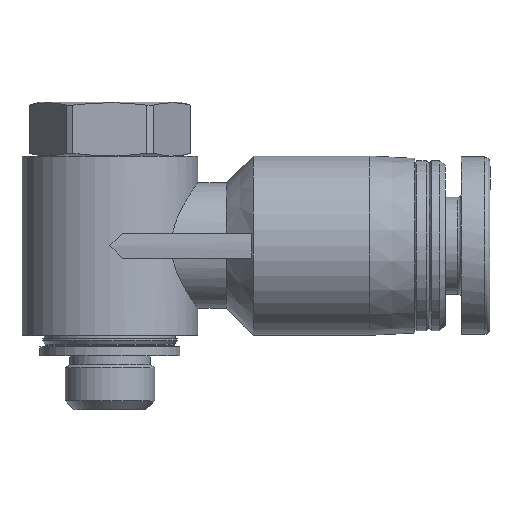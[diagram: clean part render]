
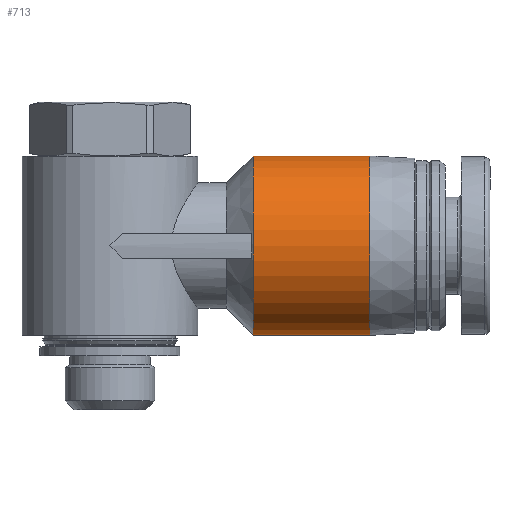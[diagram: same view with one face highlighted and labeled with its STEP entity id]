
A CAD part, front view. The second image highlights one B-rep face of the part: STEP entity #713.
In plain terms, the highlighted cylindrical face has radius 5 mm (diameter 10 mm), a partial arc.
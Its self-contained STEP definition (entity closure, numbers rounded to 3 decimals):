
#216 = EDGE_CURVE ( 'NONE', #2371, #2282, #987, .T. ) ;
#309 = DIRECTION ( 'NONE',  ( 0., 0., -1. ) ) ;
#477 = CARTESIAN_POINT ( 'NONE',  ( 8., 0., 4.15 ) ) ;
#479 = AXIS2_PLACEMENT_3D ( 'NONE', #2148, #2823, #309 ) ;
#583 = AXIS2_PLACEMENT_3D ( 'NONE', #1179, #2078, #2111 ) ;
#713 = ADVANCED_FACE ( '48', ( #1625 ), #2098, .T. ) ;
#739 = DIRECTION ( 'NONE',  ( 1., 0., 0. ) ) ;
#765 = CARTESIAN_POINT ( 'NONE',  ( 8., 0., 4.15 ) ) ;
#778 = ORIENTED_EDGE ( 'NONE', *, *, #2400, .F. ) ;
#794 = ORIENTED_EDGE ( 'NONE', *, *, #2530, .F. ) ;
#987 = LINE ( 'NONE', #477, #2392 ) ;
#1112 = LINE ( 'NONE', #2719, #2429 ) ;
#1179 = CARTESIAN_POINT ( 'NONE',  ( 8., 0., 9.15 ) ) ;
#1337 = CARTESIAN_POINT ( 'NONE',  ( 14.5, 0., 4.15 ) ) ;
#1370 = EDGE_CURVE ( 'NONE', #2282, #2549, #1746, .T. ) ;
#1625 = FACE_OUTER_BOUND ( 'NONE', #2350, .T. ) ;
#1701 = CARTESIAN_POINT ( 'NONE',  ( 14.5, 0., 9.15 ) ) ;
#1746 = CIRCLE ( 'NONE', #1979, 5. ) ;
#1977 = DIRECTION ( 'NONE',  ( -1., 0., 0. ) ) ;
#1979 = AXIS2_PLACEMENT_3D ( 'NONE', #1701, #1977, #2414 ) ;
#2078 = DIRECTION ( 'NONE',  ( -1., 0., 0. ) ) ;
#2098 = CYLINDRICAL_SURFACE ( 'NONE', #479, 5. ) ;
#2111 = DIRECTION ( 'NONE',  ( 0., 0.104, 0.995 ) ) ;
#2148 = CARTESIAN_POINT ( 'NONE',  ( 8., 0., 9.15 ) ) ;
#2237 = CIRCLE ( 'NONE', #583, 5. ) ;
#2280 = CARTESIAN_POINT ( 'NONE',  ( 14.5, 0., 14.15 ) ) ;
#2282 = VERTEX_POINT ( 'NONE', #1337 ) ;
#2350 = EDGE_LOOP ( 'NONE', ( #794, #778, #2834, #2938 ) ) ;
#2371 = VERTEX_POINT ( 'NONE', #765 ) ;
#2392 = VECTOR ( 'NONE', #739, 1000. ) ;
#2400 = EDGE_CURVE ( 'NONE', #2371, #2442, #2237, .T. ) ;
#2414 = DIRECTION ( 'NONE',  ( 0., 0., -1. ) ) ;
#2429 = VECTOR ( 'NONE', #2477, 1000. ) ;
#2442 = VERTEX_POINT ( 'NONE', #2629 ) ;
#2477 = DIRECTION ( 'NONE',  ( 1., 0., 0. ) ) ;
#2530 = EDGE_CURVE ( 'NONE', #2442, #2549, #1112, .T. ) ;
#2549 = VERTEX_POINT ( 'NONE', #2280 ) ;
#2629 = CARTESIAN_POINT ( 'NONE',  ( 8., 0., 14.15 ) ) ;
#2719 = CARTESIAN_POINT ( 'NONE',  ( 8., 0., 14.15 ) ) ;
#2823 = DIRECTION ( 'NONE',  ( 1., 0., 0. ) ) ;
#2834 = ORIENTED_EDGE ( 'NONE', *, *, #216, .T. ) ;
#2938 = ORIENTED_EDGE ( 'NONE', *, *, #1370, .T. ) ;
